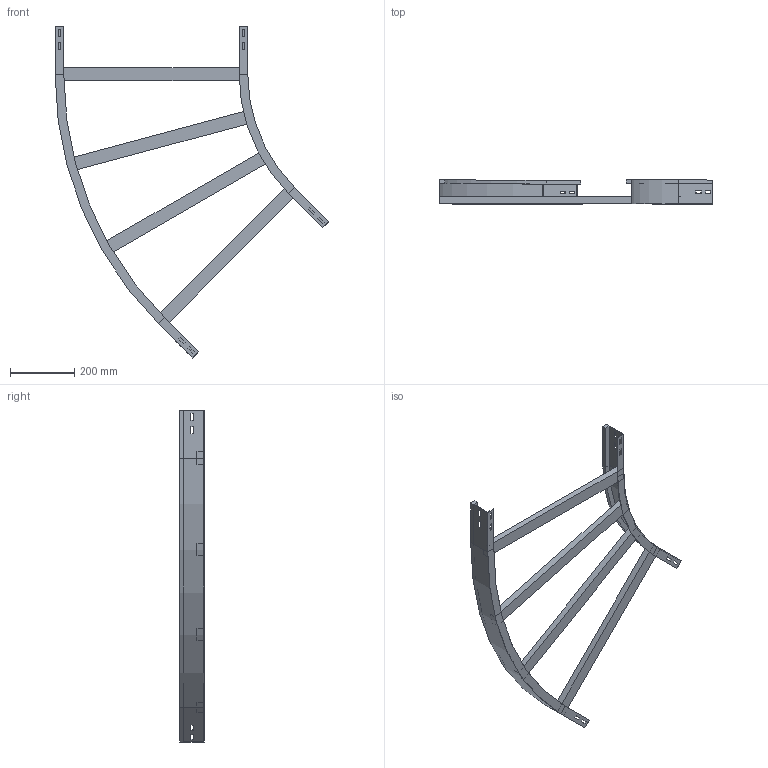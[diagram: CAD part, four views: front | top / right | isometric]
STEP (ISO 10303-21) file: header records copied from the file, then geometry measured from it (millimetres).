
FILE_DESCRIPTION (( 'STEP AP214' ), '1' );
FILE_NAME ('11B5C600.step', '2025-02-21T15:15:35', ( '' ), ( '' ), 'SwSTEP 2.0', 'SolidWorks 2023', '' );
FILE_SCHEMA (( 'AUTOMOTIVE_DESIGN' ));
Length unit declared in the file: millimetre
Products named in the file (4): A2_LONGH.ESTERNO 45°_H75_R500+600; A2_LONGH.INTERNO 45°_H75_R500; TRAVERSINO_600; 11B5C600
Assembly tree (6 placements, depth 2):
  11B5C600
    A2_LONGH.INTERNO 45°_H75_R500
    A2_LONGH.ESTERNO 45°_H75_R500+600
    TRAVERSINO_600  x4
Bounding box: 852.51 x 75 x 1033.88 mm (x, y, z)
Volume: 2653913.7 mm3; surface area: 731606.3 mm2
Topology: 6 solids, 6 shells, 140 faces, 352 edges, 224 vertices
Faces by surface type: plane 132, cylinder 8
Entity records: 3829 total; most frequent: CARTESIAN_POINT 647, ORIENTED_EDGE 632, DIRECTION 594, EDGE_CURVE 316, VECTOR 300, LINE 300, VERTEX_POINT 200, EDGE_LOOP 154
